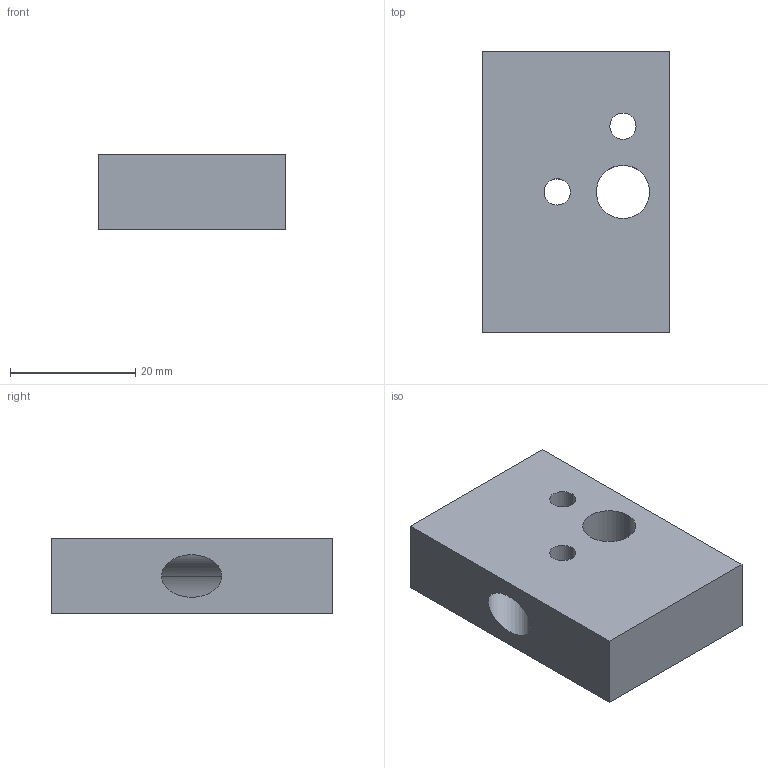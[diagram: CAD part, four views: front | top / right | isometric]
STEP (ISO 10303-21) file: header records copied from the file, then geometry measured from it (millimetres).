
FILE_DESCRIPTION (( 'STEP AP203' ), '1' );
FILE_NAME ('084.807.006.STEP', '2013-01-29T12:56:39', ( 'Alusic' ), ( 'Alusic' ), 'SwSTEP 2.0', 'SolidWorks 2011', '' );
FILE_SCHEMA (( 'CONFIG_CONTROL_DESIGN' ));
Length unit declared in the file: millimetre
Products named in the file (1): 084.807.006
Bounding box: 30 x 45 x 12 mm (x, y, z)
Volume: 14034.1 mm3; surface area: 5543.5 mm2
Topology: 1 solids, 1 shells, 14 faces, 36 edges, 24 vertices
Faces by surface type: cylinder 8, plane 6
Entity records: 525 total; most frequent: CARTESIAN_POINT 87, DIRECTION 74, ORIENTED_EDGE 72, EDGE_CURVE 36, AXIS2_PLACEMENT_3D 27, VERTEX_POINT 24, EDGE_LOOP 22, VECTOR 20
